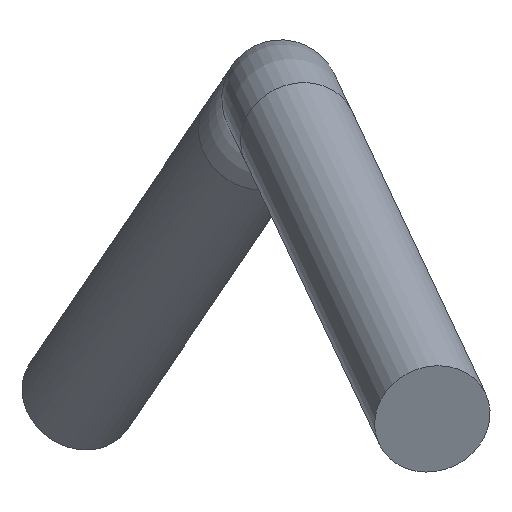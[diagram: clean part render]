
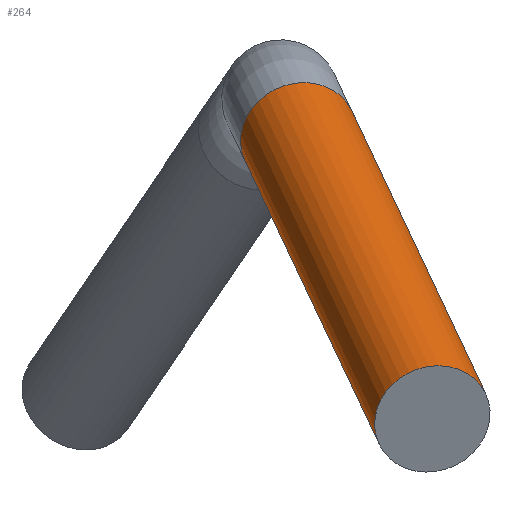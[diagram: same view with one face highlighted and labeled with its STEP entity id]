
A CAD part, left-side view. The second image highlights one B-rep face of the part: STEP entity #264.
In plain terms, the highlighted cylindrical face has radius 0.525 mm (diameter 1.05 mm), a full revolution.
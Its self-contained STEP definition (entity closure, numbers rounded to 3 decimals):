
#198 = TOROIDAL_SURFACE('',#199,3.,0.525);
#199 = AXIS2_PLACEMENT_3D('',#200,#201,#202);
#200 = CARTESIAN_POINT('',(-21.237,20.316,
    -11.311));
#201 = DIRECTION('',(0.,-0.904,0.428)
  );
#202 = DIRECTION('',(0.,0.428,0.904));
#215 = VERTEX_POINT('',#216);
#216 = CARTESIAN_POINT('',(-22.451,21.502,
    -9.403));
#237 = EDGE_CURVE('',#215,#215,#238,.T.);
#238 = SURFACE_CURVE('',#239,(#244,#251),.PCURVE_S1.);
#239 = CIRCLE('',#240,0.525);
#240 = AXIS2_PLACEMENT_3D('',#241,#242,#243);
#241 = CARTESIAN_POINT('',(-22.67,21.444,
    -8.929));
#242 = DIRECTION('',(0.879,0.204,0.432));
#243 = DIRECTION('',(-0.478,0.376,0.794));
#244 = PCURVE('',#198,#245);
#245 = DEFINITIONAL_REPRESENTATION('',(#246),#250);
#246 = LINE('',#247,#248);
#247 = CARTESIAN_POINT('',(0.498,0.));
#248 = VECTOR('',#249,1.);
#249 = DIRECTION('',(0.,1.));
#250 = ( GEOMETRIC_REPRESENTATION_CONTEXT(2) 
PARAMETRIC_REPRESENTATION_CONTEXT() REPRESENTATION_CONTEXT('2D SPACE',''
  ) );
#251 = PCURVE('',#252,#257);
#252 = CYLINDRICAL_SURFACE('',#253,0.525);
#253 = AXIS2_PLACEMENT_3D('',#254,#255,#256);
#254 = CARTESIAN_POINT('',(-22.67,21.444,
    -8.929));
#255 = DIRECTION('',(-0.879,-0.204,-0.432));
#256 = DIRECTION('',(0.417,0.111,-0.902));
#257 = DEFINITIONAL_REPRESENTATION('',(#258),#261);
#258 = B_SPLINE_CURVE_WITH_KNOTS('',1,(#259,#260),.UNSPECIFIED.,.F.,.F.,
  (2,2),(3.65,9.933),.PIECEWISE_BEZIER_KNOTS.);
#259 = CARTESIAN_POINT('',(6.283,0.));
#260 = CARTESIAN_POINT('',(0.,0.));
#261 = ( GEOMETRIC_REPRESENTATION_CONTEXT(2) 
PARAMETRIC_REPRESENTATION_CONTEXT() REPRESENTATION_CONTEXT('2D SPACE',''
  ) );
#264 = ADVANCED_FACE('',(#265),#252,.T.);
#265 = FACE_BOUND('',#266,.T.);
#266 = EDGE_LOOP('',(#267,#289,#316,#317));
#267 = ORIENTED_EDGE('',*,*,#268,.T.);
#268 = EDGE_CURVE('',#215,#269,#271,.T.);
#269 = VERTEX_POINT('',#270);
#270 = CARTESIAN_POINT('',(-27.581,20.308,
    -11.924));
#271 = SEAM_CURVE('',#272,(#276,#282),.PCURVE_S1.);
#272 = LINE('',#273,#274);
#273 = CARTESIAN_POINT('',(-22.451,21.502,
    -9.403));
#274 = VECTOR('',#275,1.);
#275 = DIRECTION('',(-0.879,-0.204,-0.432));
#276 = PCURVE('',#252,#277);
#277 = DEFINITIONAL_REPRESENTATION('',(#278),#281);
#278 = B_SPLINE_CURVE_WITH_KNOTS('',1,(#279,#280),.UNSPECIFIED.,.F.,.F.,
  (2,2),(0.,5.839),.PIECEWISE_BEZIER_KNOTS.);
#279 = CARTESIAN_POINT('',(6.283,0.));
#280 = CARTESIAN_POINT('',(6.283,5.839));
#281 = ( GEOMETRIC_REPRESENTATION_CONTEXT(2) 
PARAMETRIC_REPRESENTATION_CONTEXT() REPRESENTATION_CONTEXT('2D SPACE',''
  ) );
#282 = PCURVE('',#252,#283);
#283 = DEFINITIONAL_REPRESENTATION('',(#284),#288);
#284 = LINE('',#285,#286);
#285 = CARTESIAN_POINT('',(0.,0.));
#286 = VECTOR('',#287,1.);
#287 = DIRECTION('',(0.,1.));
#288 = ( GEOMETRIC_REPRESENTATION_CONTEXT(2) 
PARAMETRIC_REPRESENTATION_CONTEXT() REPRESENTATION_CONTEXT('2D SPACE',''
  ) );
#289 = ORIENTED_EDGE('',*,*,#290,.F.);
#290 = EDGE_CURVE('',#269,#269,#291,.T.);
#291 = SURFACE_CURVE('',#292,(#297,#304),.PCURVE_S1.);
#292 = CIRCLE('',#293,0.525);
#293 = AXIS2_PLACEMENT_3D('',#294,#295,#296);
#294 = CARTESIAN_POINT('',(-27.8,20.25,-11.45));
#295 = DIRECTION('',(-0.879,-0.204,-0.432));
#296 = DIRECTION('',(0.417,0.111,-0.902));
#297 = PCURVE('',#252,#298);
#298 = DEFINITIONAL_REPRESENTATION('',(#299),#303);
#299 = LINE('',#300,#301);
#300 = CARTESIAN_POINT('',(0.,5.839));
#301 = VECTOR('',#302,1.);
#302 = DIRECTION('',(1.,0.));
#303 = ( GEOMETRIC_REPRESENTATION_CONTEXT(2) 
PARAMETRIC_REPRESENTATION_CONTEXT() REPRESENTATION_CONTEXT('2D SPACE',''
  ) );
#304 = PCURVE('',#305,#310);
#305 = PLANE('',#306);
#306 = AXIS2_PLACEMENT_3D('',#307,#308,#309);
#307 = CARTESIAN_POINT('',(-27.8,20.25,-11.45));
#308 = DIRECTION('',(-0.879,-0.204,-0.432));
#309 = DIRECTION('',(0.441,0.,-0.898)
  );
#310 = DEFINITIONAL_REPRESENTATION('',(#311),#315);
#311 = CIRCLE('',#312,0.525);
#312 = AXIS2_PLACEMENT_2D('',#313,#314);
#313 = CARTESIAN_POINT('',(0.,0.));
#314 = DIRECTION('',(0.994,-0.114));
#315 = ( GEOMETRIC_REPRESENTATION_CONTEXT(2) 
PARAMETRIC_REPRESENTATION_CONTEXT() REPRESENTATION_CONTEXT('2D SPACE',''
  ) );
#316 = ORIENTED_EDGE('',*,*,#268,.F.);
#317 = ORIENTED_EDGE('',*,*,#237,.F.);
